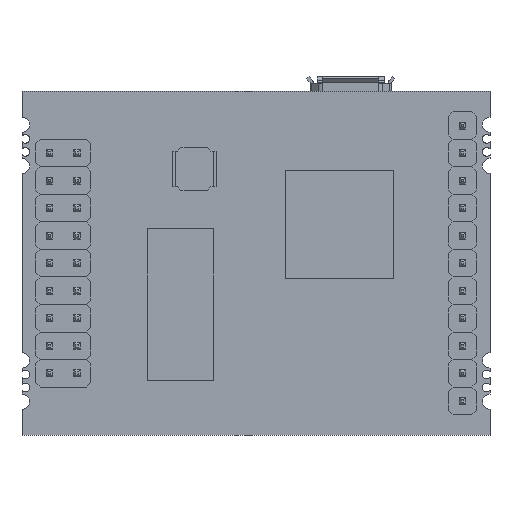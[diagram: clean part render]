
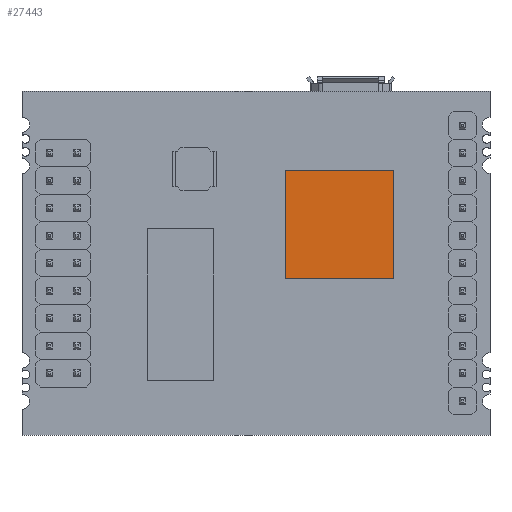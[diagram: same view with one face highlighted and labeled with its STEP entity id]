
A CAD part, front view. The second image highlights one B-rep face of the part: STEP entity #27443.
In plain terms, the highlighted planar face has unit normal (0, -1, 0) as drawn and (0, 1, 0) by its records, which use the part's own axes.
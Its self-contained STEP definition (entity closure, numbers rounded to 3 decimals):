
#27316=DIRECTION('',(0.,0.,1.));
#27317=VECTOR('',#27316,10.);
#27318=CARTESIAN_POINT('',(-5.,1.6,-5.));
#27319=LINE('',#27318,#27317);
#27323=DIRECTION('',(-1.,0.,0.));
#27324=VECTOR('',#27323,10.);
#27325=CARTESIAN_POINT('',(5.,1.6,-5.));
#27326=LINE('',#27325,#27324);
#27330=DIRECTION('',(0.,0.,-1.));
#27331=VECTOR('',#27330,10.);
#27332=CARTESIAN_POINT('',(5.,1.6,5.));
#27333=LINE('',#27332,#27331);
#27337=DIRECTION('',(1.,0.,0.));
#27338=VECTOR('',#27337,10.);
#27339=CARTESIAN_POINT('',(-5.,1.6,5.));
#27340=LINE('',#27339,#27338);
#27352=CARTESIAN_POINT('',(-5.,1.6,-5.));
#27353=CARTESIAN_POINT('',(-5.,1.6,5.));
#27354=VERTEX_POINT('',#27352);
#27355=VERTEX_POINT('',#27353);
#27356=CARTESIAN_POINT('',(5.,1.6,5.));
#27357=VERTEX_POINT('',#27356);
#27358=CARTESIAN_POINT('',(5.,1.6,-5.));
#27359=VERTEX_POINT('',#27358);
#27432=CARTESIAN_POINT('',(0.,1.6,0.));
#27433=DIRECTION('',(0.,1.,0.));
#27434=DIRECTION('',(1.,0.,0.));
#27435=AXIS2_PLACEMENT_3D('',#27432,#27433,#27434);
#27436=PLANE('',#27435);
#27437=ORIENTED_EDGE('',*,*,#27384,.F.);
#27438=ORIENTED_EDGE('',*,*,#27399,.F.);
#27439=ORIENTED_EDGE('',*,*,#27413,.F.);
#27440=ORIENTED_EDGE('',*,*,#27426,.F.);
#27441=EDGE_LOOP('',(#27437,#27438,#27439,#27440));
#27442=FACE_OUTER_BOUND('',#27441,.F.);
#27384=EDGE_CURVE('',#27354,#27355,#27319,.T.);
#27399=EDGE_CURVE('',#27359,#27354,#27326,.T.);
#27413=EDGE_CURVE('',#27357,#27359,#27333,.T.);
#27426=EDGE_CURVE('',#27355,#27357,#27340,.T.);
#27443=ADVANCED_FACE('',(#27442),#27436,.T.);
